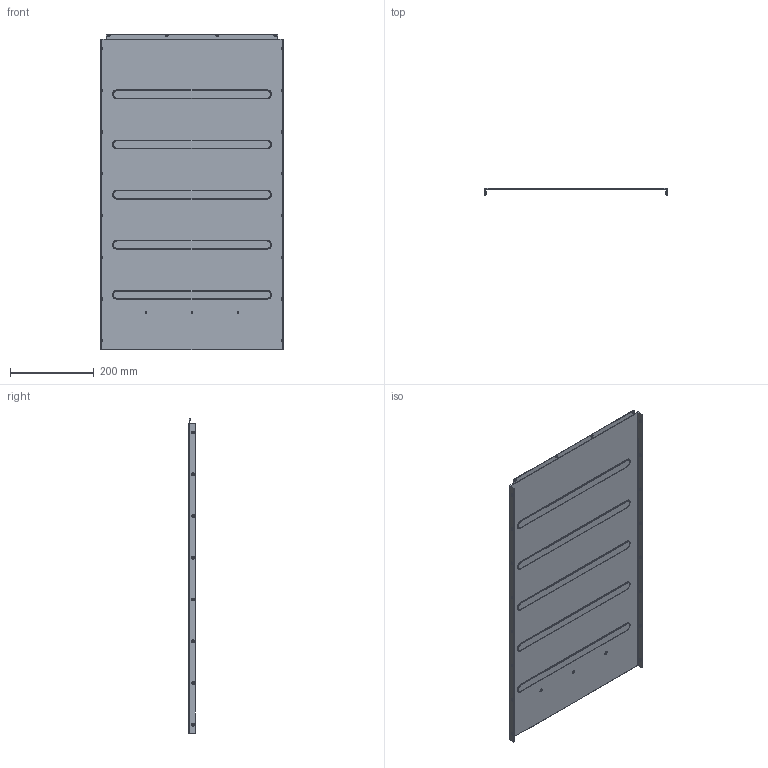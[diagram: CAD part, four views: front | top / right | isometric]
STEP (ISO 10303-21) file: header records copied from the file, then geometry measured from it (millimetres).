
FILE_DESCRIPTION((''),'2;1');
FILE_NAME('0_NCP-2_COVER_2U_J2_ASM','2018-09-19T',('830923'),(''),'CREO PARAMETRIC BY PTC INC, 2014350','CREO PARAMETRIC BY PTC INC, 2014350','');
FILE_SCHEMA(('AUTOMOTIVE_DESIGN { 1 0 10303 214 1 1 1 1 }'));
Length unit declared in the file: millimetre
Products named in the file (4): NCP-2_COVER_2RJ_J2; PEM_SMPS-M3_NUT; PAD-STUD; 0_NCP-2_COVER_2U_J2_ASM
Assembly tree (21 placements, depth 2):
  0_NCP-2_COVER_2U_J2_ASM
    NCP-2_COVER_2RJ_J2
    PEM_SMPS-M3_NUT  x4
    PAD-STUD  x16
Bounding box: 436 x 16.5 x 756.4 mm (x, y, z)
Volume: 424288.5 mm3; surface area: 711538.9 mm2
Topology: 21 solids, 21 shells, 582 faces, 1208 edges, 734 vertices
Faces by surface type: cylinder 258, plane 162, cone 122, torus 40
Entity records: 12249 total; most frequent: DIRECTION 1518, CARTESIAN_POINT 1290, ORIENTED_EDGE 1216, PRESENTATION_STYLE_ASSIGNMENT 844, STYLED_ITEM 841, AXIS2_PLACEMENT_3D 618, CURVE_STYLE 608, EDGE_CURVE 608
